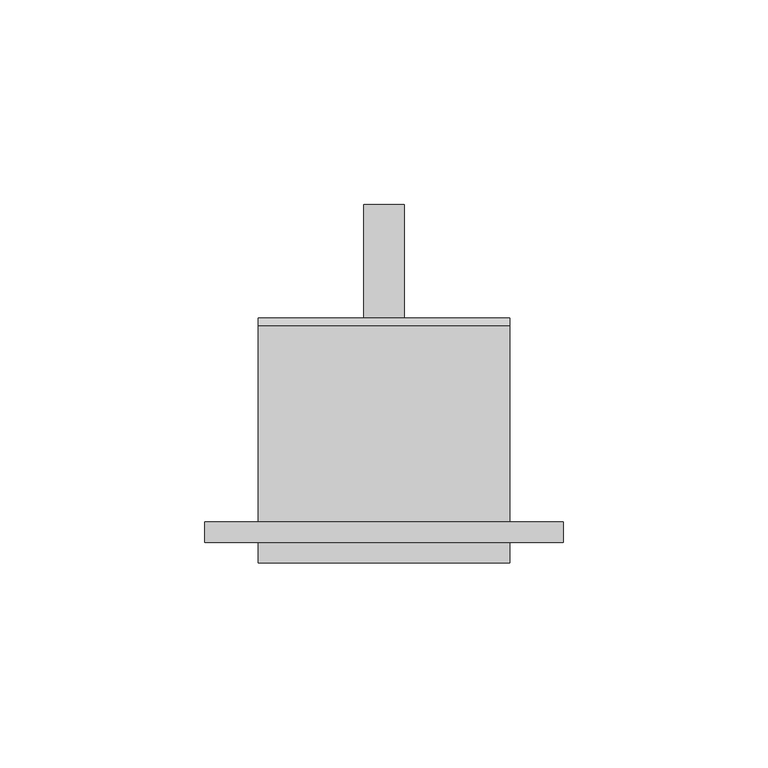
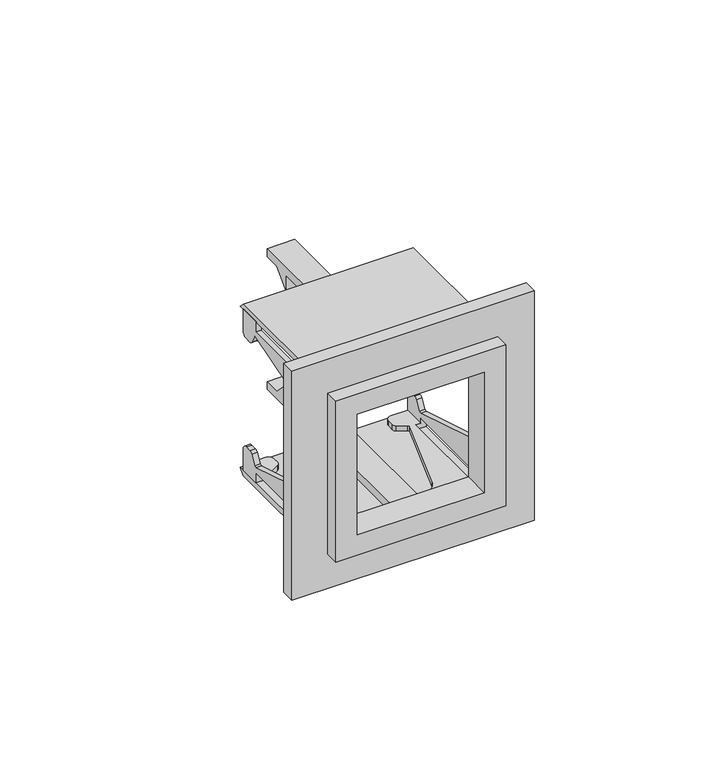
"""IFC4 building model written with IfcOpenShell, lengths in millimetres: proxy geometry, TDM_КРЕПЛЕНИЕ В ВЫРЕЗ ЩИТКА ДЛЯ РЕЛЕ РВ2_РВ3 : КР-57."""

from ifc_helpers import new_model, si_unit, frame, origin, place, context, project, spatial, polyline, circle_curve, outline, extrude, faceted_brep, source, transform, mapped, element, save
from ifc_brep_helpers import plane_surface, cylinder_surface, revolved_surface, advanced_brep


def electrical_equipment_624e8b7a(model_context):
    return source(origin(), model_context, "Body", "SolidModel", [
        faceted_brep([(30.75, -10.0, 30.75), (-30.75, -10.0, 30.75), (-30.75, -10.0, -30.75), (30.75, -10.0, -30.75), (23.0, -10.0, 23.0), (23.0, -10.0, -23.0), (-23.0, -10.0, -23.0), (-23.0, -10.0, 23.0), (43.8, 0.0, 43.8), (43.8, 0.0, -43.8), (-43.8, 0.0, -43.8), (-43.8, 0.0, 43.8), (23.0, 0.0, 23.0), (-23.0, 0.0, 23.0), (-23.0, 0.0, -23.0), (23.0, 0.0, -23.0), (30.75, -5.0, 30.75), (-30.75, -5.0, 30.75), (-30.75, -5.0, -30.75), (30.75, -5.0, -30.75), (43.8, -5.0, 43.8), (-43.8, -5.0, 43.8), (-43.8, -5.0, -43.8), (43.8, -5.0, -43.8)], [[[0, 1, 2, 3], [4, 5, 6, 7]], [[8, 9, 10, 11], [12, 13, 14, 15]], [[1, 0, 16, 17]], [[2, 1, 17, 18]], [[3, 2, 18, 19]], [[0, 3, 19, 16]], [[5, 4, 12, 15]], [[6, 5, 15, 14]], [[7, 6, 14, 13]], [[4, 7, 13, 12]], [[20, 21, 22, 23], [17, 16, 19, 18]], [[21, 20, 8, 11]], [[22, 21, 11, 10]], [[23, 22, 10, 9]], [[20, 23, 9, 8]]]),
        advanced_brep(
        [(-30.75, 48.0, 30.75), (-30.75, 48.0, 22.6353155), (-30.75, 46.1146845, 20.75), (-30.75, 43.7973806, 20.75), (-30.75, 42.6013097, 21.4405518), (-30.75, 40.7648835, 24.6213353), (-30.75, 39.9933813, 24.9252381), (-30.75, 10.3376033, 15.8585569), (-30.75, 6.0918335, 10.1207284), (-30.75, 6.0918335, -10.1207284), (-30.75, 10.3376033, -15.8585569), (-30.75, 39.9933813, -24.9252381), (-30.75, 40.7648835, -24.6213353), (-30.75, 42.6013097, -21.4405518), (-30.75, 43.7973806, -20.75), (-30.75, 46.1146845, -20.75), (-30.75, 48.0, -22.6353155), (-30.75, 48.0, -30.75), (-30.75, 40.0, -30.75), (-30.75, 40.0, -26.9082998), (-30.75, 0.0, -26.9082998), (-30.75, 0.0, 26.9082998), (-30.75, 40.0, 26.9082998), (-30.75, 40.0, 30.75), (-28.75, 40.0, 26.9082998), (-28.75, 0.0, 26.9082998), (-28.75, 0.0, -26.9082998), (-28.75, 40.0, -26.9082998), (-28.75, 40.0, -28.75), (-28.75, 48.0, -28.75), (-28.75, 48.0, -22.6353155), (-28.75, 46.1146845, -20.75), (-28.75, 43.7973806, -20.75), (-28.75, 42.6013097, -21.4405518), (-28.75, 40.7648835, -24.6213353), (-28.75, 39.9933813, -24.9252381), (-28.75, 10.3376033, -15.8585569), (-28.75, 6.0918335, -10.1207284), (-28.75, 6.0918335, 10.1207284), (-28.75, 10.3376033, 15.8585569), (-28.75, 39.9933813, 24.9252381), (-28.75, 40.7648835, 24.6213353), (-28.75, 42.6013097, 21.4405518), (-28.75, 43.7973806, 20.75), (-28.75, 46.1146845, 20.75), (-28.75, 48.0, 22.6353155), (-28.75, 48.0, 28.75), (-28.75, 40.0, 28.75), (-26.9082998, 40.0, 30.75), (-26.9082998, 0.0, 30.75), (26.9082998, 0.0, 30.75), (26.9082998, 40.0, 30.75), (30.75, 40.0, 30.75), (30.75, 48.0, 30.75), (22.6353155, 48.0, 30.75), (20.75, 46.1146845, 30.75), (20.75, 43.7973806, 30.75), (21.4405518, 42.6013097, 30.75), (24.6213353, 40.7648835, 30.75), (24.9252381, 39.9933813, 30.75), (15.8585569, 10.3376033, 30.75), (10.1207284, 6.0918335, 30.75), (-10.1207284, 6.0918335, 30.75), (-15.8585569, 10.3376033, 30.75), (-24.9252381, 39.9933813, 30.75), (-24.6213353, 40.7648835, 30.75), (-21.4405518, 42.6013097, 30.75), (-20.75, 43.7973806, 30.75), (-20.75, 46.1146845, 30.75), (-22.6353155, 48.0, 30.75), (-26.9082998, 40.0, 28.75), (-26.9082998, 40.0, -30.75), (-26.9082998, 40.0, -28.75), (-22.6353155, 48.0, -30.75), (-20.75, 46.1146845, -30.75), (-20.75, 43.7973806, -30.75), (-21.4405518, 42.6013097, -30.75), (-24.6213353, 40.7648835, -30.75), (-24.9252381, 39.9933813, -30.75), (-15.8585569, 10.3376033, -30.75), (-10.1207284, 6.0918335, -30.75), (10.1207284, 6.0918335, -30.75), (15.8585569, 10.3376033, -30.75), (24.9252381, 39.9933813, -30.75), (24.6213353, 40.7648835, -30.75), (21.4405518, 42.6013097, -30.75), (20.75, 43.7973806, -30.75), (20.75, 46.1146845, -30.75), (22.6353155, 48.0, -30.75), (30.75, 48.0, -30.75), (30.75, 40.0, -30.75), (26.9082998, 40.0, -30.75), (26.9082998, 0.0, -30.75), (-26.9082998, 0.0, -30.75), (-22.6353155, 48.0, -28.75), (-22.6353155, 48.0, 28.75), (22.6353155, 48.0, -28.75), (20.75, 46.1146845, -28.75), (20.75, 43.7973806, -28.75), (21.4405518, 42.6013097, -28.75), (24.6213353, 40.7648835, -28.75), (24.9252381, 39.9933813, -28.75), (15.8585569, 10.3376033, -28.75), (10.1207284, 6.0918335, -28.75), (-10.1207284, 6.0918335, -28.75), (-15.8585569, 10.3376033, -28.75), (-24.9252381, 39.9933813, -28.75), (-24.6213353, 40.7648835, -28.75), (-21.4405518, 42.6013097, -28.75), (-20.75, 43.7973806, -28.75), (-20.75, 46.1146845, -28.75), (-26.9082998, 0.0, -28.75), (26.9082998, 0.0, -28.75), (26.9082998, 40.0, -28.75), (28.75, 40.0, -28.75), (28.75, 48.0, -28.75), (30.75, 48.0, -22.6353155), (30.75, 46.1146845, -20.75), (30.75, 43.7973806, -20.75), (30.75, 42.6013097, -21.4405518), (30.75, 40.7648835, -24.6213353), (30.75, 39.9933813, -24.9252381), (30.75, 10.3376033, -15.8585569), (30.75, 6.0918335, -10.1207284), (30.75, 6.0918335, 10.1207284), (30.75, 10.3376033, 15.8585569), (30.75, 39.9933813, 24.9252381), (30.75, 40.7648835, 24.6213353), (30.75, 42.6013097, 21.4405518), (30.75, 43.7973806, 20.75), (30.75, 46.1146845, 20.75), (30.75, 48.0, 22.6353155), (30.75, 40.0, 26.9082998), (30.75, 0.0, 26.9082998), (30.75, 0.0, -26.9082998), (30.75, 40.0, -26.9082998), (28.75, 40.0, -26.9082998), (28.75, 48.0, -22.6353155), (28.75, 48.0, 22.6353155), (28.75, 46.1146845, 20.75), (28.75, 43.7973806, 20.75), (28.75, 42.6013097, 21.4405518), (28.75, 40.7648835, 24.6213353), (28.75, 39.9933813, 24.9252381), (28.75, 10.3376033, 15.8585569), (28.75, 6.0918335, 10.1207284), (28.75, 6.0918335, -10.1207284), (28.75, 10.3376033, -15.8585569), (28.75, 39.9933813, -24.9252381), (28.75, 40.7648835, -24.6213353), (28.75, 42.6013097, -21.4405518), (28.75, 43.7973806, -20.75), (28.75, 46.1146845, -20.75), (28.75, 0.0, -26.9082998), (28.75, 0.0, 26.9082998), (28.75, 40.0, 26.9082998), (28.75, 40.0, 28.75), (28.75, 48.0, 28.75), (26.9082998, 40.0, 28.75), (22.6353155, 48.0, 28.75), (26.9082998, 0.0, 28.75), (-26.9082998, 0.0, 28.75), (-20.75, 46.1146845, 28.75), (-20.75, 43.7973806, 28.75), (-21.4405518, 42.6013097, 28.75), (-24.6213353, 40.7648835, 28.75), (-24.9252381, 39.9933813, 28.75), (-15.8585569, 10.3376033, 28.75), (-10.1207284, 6.0918335, 28.75), (10.1207284, 6.0918335, 28.75), (15.8585569, 10.3376033, 28.75), (24.9252381, 39.9933813, 28.75), (24.6213353, 40.7648835, 28.75), (21.4405518, 42.6013097, 28.75), (20.75, 43.7973806, 28.75), (20.75, 46.1146845, 28.75)],
        [
            (0, 1),
            (1, 2, circle_curve(frame((-30.75, 46.1146845, 22.6353155), z_axis=(-1.0, 0.0, 0.0), x_axis=(0.0, -1.0, 0.0)), 1.8853155)),
            (2, 3),
            (3, 4, circle_curve(frame((-30.75, 43.7973806, 22.1311036), z_axis=(-1.0, 0.0, 0.0), x_axis=(0.0, -1.0, 0.0)), 1.3811036)),
            (4, 5),
            (5, 6, circle_curve(frame((-30.75, 40.1881033, 24.2883312), z_axis=(1.0, 0.0, 0.0), x_axis=(0.0, -1.0, 0.0)), 0.6660084)),
            (6, 7),
            (7, 8, circle_curve(frame((-30.75, 12.0918335, 10.1207284), z_axis=(1.0, 0.0, 0.0), x_axis=(0.0, -1.0, 0.0)), 6.0)),
            (8, 9),
            (9, 10, circle_curve(frame((-30.75, 12.0918335, -10.1207284), z_axis=(1.0, 0.0, 0.0), x_axis=(0.0, -1.0, 0.0)), 6.0)),
            (10, 11),
            (11, 12, circle_curve(frame((-30.75, 40.1881033, -24.2883312), z_axis=(1.0, 0.0, 0.0), x_axis=(0.0, -1.0, 0.0)), 0.6660084)),
            (12, 13),
            (13, 14, circle_curve(frame((-30.75, 43.7973806, -22.1311036), z_axis=(-1.0, 0.0, 0.0), x_axis=(0.0, -1.0, 0.0)), 1.3811036)),
            (14, 15),
            (15, 16, circle_curve(frame((-30.75, 46.1146845, -22.6353155), z_axis=(-1.0, 0.0, 0.0), x_axis=(0.0, -1.0, 0.0)), 1.8853155)),
            (16, 17),
            (17, 18),
            (18, 19),
            (19, 20),
            (20, 21),
            (21, 22),
            (22, 23),
            (23, 0),
            (24, 25),
            (25, 26),
            (26, 27),
            (27, 28),
            (28, 29),
            (29, 30),
            (30, 31, circle_curve(frame((-28.75, 46.1146845, -22.6353155), z_axis=(1.0, 0.0, 0.0), x_axis=(0.0, -1.0, 0.0)), 1.8853155)),
            (31, 32),
            (32, 33, circle_curve(frame((-28.75, 43.7973806, -22.1311036), z_axis=(1.0, 0.0, 0.0), x_axis=(0.0, -1.0, 0.0)), 1.3811036)),
            (33, 34),
            (34, 35, circle_curve(frame((-28.75, 40.1881033, -24.2883312), z_axis=(-1.0, 0.0, 0.0), x_axis=(0.0, -1.0, 0.0)), 0.6660084)),
            (35, 36),
            (36, 37, circle_curve(frame((-28.75, 12.0918335, -10.1207284), z_axis=(-1.0, 0.0, 0.0), x_axis=(0.0, -1.0, 0.0)), 6.0)),
            (37, 38),
            (38, 39, circle_curve(frame((-28.75, 12.0918335, 10.1207284), z_axis=(-1.0, 0.0, 0.0), x_axis=(0.0, -1.0, 0.0)), 6.0)),
            (39, 40),
            (40, 41, circle_curve(frame((-28.75, 40.1881033, 24.2883312), z_axis=(-1.0, 0.0, 0.0), x_axis=(0.0, -1.0, 0.0)), 0.6660084)),
            (41, 42),
            (42, 43, circle_curve(frame((-28.75, 43.7973806, 22.1311036), z_axis=(1.0, 0.0, 0.0), x_axis=(0.0, -1.0, 0.0)), 1.3811036)),
            (43, 44),
            (44, 45, circle_curve(frame((-28.75, 46.1146845, 22.6353155), z_axis=(1.0, 0.0, 0.0), x_axis=(0.0, -1.0, 0.0)), 1.8853155)),
            (45, 46),
            (46, 47),
            (47, 24),
            (23, 48),
            (48, 49),
            (49, 50),
            (50, 51),
            (51, 52),
            (52, 53),
            (53, 54),
            (54, 55, circle_curve(frame((22.6353155, 46.1146845, 30.75), z_axis=(0.0, 0.0, 1.0), x_axis=(0.0, -1.0, 0.0)), 1.8853155)),
            (55, 56),
            (56, 57, circle_curve(frame((22.1311036, 43.7973806, 30.75), z_axis=(0.0, 0.0, 1.0), x_axis=(0.0, -1.0, 0.0)), 1.3811036)),
            (57, 58),
            (58, 59, circle_curve(frame((24.2883312, 40.1881033, 30.75), z_axis=(0.0, 0.0, -1.0), x_axis=(0.0, -1.0, 0.0)), 0.6660084)),
            (59, 60),
            (60, 61, circle_curve(frame((10.1207284, 12.0918335, 30.75), z_axis=(0.0, 0.0, -1.0), x_axis=(0.0, -1.0, 0.0)), 6.0)),
            (61, 62),
            (62, 63, circle_curve(frame((-10.1207284, 12.0918335, 30.75), z_axis=(0.0, 0.0, -1.0), x_axis=(0.0, -1.0, 0.0)), 6.0)),
            (63, 64),
            (64, 65, circle_curve(frame((-24.2883312, 40.1881033, 30.75), z_axis=(0.0, 0.0, -1.0), x_axis=(0.0, -1.0, 0.0)), 0.6660084)),
            (65, 66),
            (66, 67, circle_curve(frame((-22.1311036, 43.7973806, 30.75), z_axis=(0.0, 0.0, 1.0), x_axis=(0.0, -1.0, 0.0)), 1.3811036)),
            (67, 68),
            (68, 69, circle_curve(frame((-22.6353155, 46.1146845, 30.75), z_axis=(0.0, 0.0, 1.0), x_axis=(0.0, -1.0, 0.0)), 1.8853155)),
            (69, 0),
            (22, 24),
            (47, 70),
            (70, 48),
            (21, 25),
            (20, 26),
            (19, 27),
            (18, 71),
            (71, 72),
            (72, 28),
            (17, 73),
            (73, 74, circle_curve(frame((-22.6353155, 46.1146845, -30.75), z_axis=(0.0, 0.0, -1.0), x_axis=(0.0, -1.0, 0.0)), 1.8853155)),
            (74, 75),
            (75, 76, circle_curve(frame((-22.1311036, 43.7973806, -30.75), z_axis=(0.0, 0.0, -1.0), x_axis=(0.0, -1.0, 0.0)), 1.3811036)),
            (76, 77),
            (77, 78, circle_curve(frame((-24.2883312, 40.1881033, -30.75), z_axis=(0.0, 0.0, 1.0), x_axis=(0.0, -1.0, 0.0)), 0.6660084)),
            (78, 79),
            (79, 80, circle_curve(frame((-10.1207284, 12.0918335, -30.75), z_axis=(0.0, 0.0, 1.0), x_axis=(0.0, -1.0, 0.0)), 6.0)),
            (80, 81),
            (81, 82, circle_curve(frame((10.1207284, 12.0918335, -30.75), z_axis=(0.0, 0.0, 1.0), x_axis=(0.0, -1.0, 0.0)), 6.0)),
            (82, 83),
            (83, 84, circle_curve(frame((24.2883312, 40.1881033, -30.75), z_axis=(0.0, 0.0, 1.0), x_axis=(0.0, -1.0, 0.0)), 0.6660084)),
            (84, 85),
            (85, 86, circle_curve(frame((22.1311036, 43.7973806, -30.75), z_axis=(0.0, 0.0, -1.0), x_axis=(0.0, -1.0, 0.0)), 1.3811036)),
            (86, 87),
            (87, 88, circle_curve(frame((22.6353155, 46.1146845, -30.75), z_axis=(0.0, 0.0, -1.0), x_axis=(0.0, -1.0, 0.0)), 1.8853155)),
            (88, 89),
            (89, 90),
            (90, 91),
            (91, 92),
            (92, 93),
            (93, 71),
            (16, 30),
            (29, 94),
            (94, 73),
            (15, 31),
            (14, 32),
            (13, 33),
            (12, 34),
            (11, 35),
            (10, 36),
            (9, 37),
            (8, 38),
            (7, 39),
            (6, 40),
            (5, 41),
            (4, 42),
            (3, 43),
            (2, 44),
            (1, 45),
            (69, 95),
            (95, 46),
            (96, 97, circle_curve(frame((22.6353155, 46.1146845, -28.75), z_axis=(0.0, 0.0, 1.0), x_axis=(0.0, -1.0, 0.0)), 1.8853155)),
            (97, 98),
            (98, 99, circle_curve(frame((22.1311036, 43.7973806, -28.75), z_axis=(0.0, 0.0, 1.0), x_axis=(0.0, -1.0, 0.0)), 1.3811036)),
            (99, 100),
            (100, 101, circle_curve(frame((24.2883312, 40.1881033, -28.75), z_axis=(0.0, 0.0, -1.0), x_axis=(0.0, -1.0, 0.0)), 0.6660084)),
            (101, 102),
            (102, 103, circle_curve(frame((10.1207284, 12.0918335, -28.75), z_axis=(0.0, 0.0, -1.0), x_axis=(0.0, -1.0, 0.0)), 6.0)),
            (103, 104),
            (104, 105, circle_curve(frame((-10.1207284, 12.0918335, -28.75), z_axis=(0.0, 0.0, -1.0), x_axis=(0.0, -1.0, 0.0)), 6.0)),
            (105, 106),
            (106, 107, circle_curve(frame((-24.2883312, 40.1881033, -28.75), z_axis=(0.0, 0.0, -1.0), x_axis=(0.0, -1.0, 0.0)), 0.6660084)),
            (107, 108),
            (108, 109, circle_curve(frame((-22.1311036, 43.7973806, -28.75), z_axis=(0.0, 0.0, 1.0), x_axis=(0.0, -1.0, 0.0)), 1.3811036)),
            (109, 110),
            (110, 94, circle_curve(frame((-22.6353155, 46.1146845, -28.75), z_axis=(0.0, 0.0, 1.0), x_axis=(0.0, -1.0, 0.0)), 1.8853155)),
            (72, 111),
            (111, 112),
            (112, 113),
            (113, 114),
            (114, 115),
            (115, 96),
            (89, 116),
            (116, 117, circle_curve(frame((30.75, 46.1146845, -22.6353155), z_axis=(1.0, 0.0, 0.0), x_axis=(0.0, -1.0, 0.0)), 1.8853155)),
            (117, 118),
            (118, 119, circle_curve(frame((30.75, 43.7973806, -22.1311036), z_axis=(1.0, 0.0, 0.0), x_axis=(0.0, -1.0, 0.0)), 1.3811036)),
            (119, 120),
            (120, 121, circle_curve(frame((30.75, 40.1881033, -24.2883312), z_axis=(-1.0, 0.0, 0.0), x_axis=(0.0, -1.0, 0.0)), 0.6660084)),
            (121, 122),
            (122, 123, circle_curve(frame((30.75, 12.0918335, -10.1207284), z_axis=(-1.0, 0.0, 0.0), x_axis=(0.0, -1.0, 0.0)), 6.0)),
            (123, 124),
            (124, 125, circle_curve(frame((30.75, 12.0918335, 10.1207284), z_axis=(-1.0, 0.0, 0.0), x_axis=(0.0, -1.0, 0.0)), 6.0)),
            (125, 126),
            (126, 127, circle_curve(frame((30.75, 40.1881033, 24.2883312), z_axis=(-1.0, 0.0, 0.0), x_axis=(0.0, -1.0, 0.0)), 0.6660084)),
            (127, 128),
            (128, 129, circle_curve(frame((30.75, 43.7973806, 22.1311036), z_axis=(1.0, 0.0, 0.0), x_axis=(0.0, -1.0, 0.0)), 1.3811036)),
            (129, 130),
            (130, 131, circle_curve(frame((30.75, 46.1146845, 22.6353155), z_axis=(1.0, 0.0, 0.0), x_axis=(0.0, -1.0, 0.0)), 1.8853155)),
            (131, 53),
            (52, 132),
            (132, 133),
            (133, 134),
            (134, 135),
            (135, 90),
            (113, 91),
            (135, 136),
            (136, 114),
            (112, 92),
            (111, 93),
            (110, 74),
            (109, 75),
            (108, 76),
            (107, 77),
            (106, 78),
            (105, 79),
            (104, 80),
            (103, 81),
            (102, 82),
            (101, 83),
            (100, 84),
            (99, 85),
            (98, 86),
            (97, 87),
            (96, 88),
            (115, 137),
            (137, 116),
            (138, 139, circle_curve(frame((28.75, 46.1146845, 22.6353155), z_axis=(-1.0, 0.0, 0.0), x_axis=(0.0, -1.0, 0.0)), 1.8853155)),
            (139, 140),
            (140, 141, circle_curve(frame((28.75, 43.7973806, 22.1311036), z_axis=(-1.0, 0.0, 0.0), x_axis=(0.0, -1.0, 0.0)), 1.3811036)),
            (141, 142),
            (142, 143, circle_curve(frame((28.75, 40.1881033, 24.2883312), z_axis=(1.0, 0.0, 0.0), x_axis=(0.0, -1.0, 0.0)), 0.6660084)),
            (143, 144),
            (144, 145, circle_curve(frame((28.75, 12.0918335, 10.1207284), z_axis=(1.0, 0.0, 0.0), x_axis=(0.0, -1.0, 0.0)), 6.0)),
            (145, 146),
            (146, 147, circle_curve(frame((28.75, 12.0918335, -10.1207284), z_axis=(1.0, 0.0, 0.0), x_axis=(0.0, -1.0, 0.0)), 6.0)),
            (147, 148),
            (148, 149, circle_curve(frame((28.75, 40.1881033, -24.2883312), z_axis=(1.0, 0.0, 0.0), x_axis=(0.0, -1.0, 0.0)), 0.6660084)),
            (149, 150),
            (150, 151, circle_curve(frame((28.75, 43.7973806, -22.1311036), z_axis=(-1.0, 0.0, 0.0), x_axis=(0.0, -1.0, 0.0)), 1.3811036)),
            (151, 152),
            (152, 137, circle_curve(frame((28.75, 46.1146845, -22.6353155), z_axis=(-1.0, 0.0, 0.0), x_axis=(0.0, -1.0, 0.0)), 1.8853155)),
            (136, 153),
            (153, 154),
            (154, 155),
            (155, 156),
            (156, 157),
            (157, 138),
            (51, 158),
            (158, 156),
            (155, 132),
            (154, 133),
            (153, 134),
            (152, 117),
            (151, 118),
            (150, 119),
            (149, 120),
            (148, 121),
            (147, 122),
            (146, 123),
            (145, 124),
            (144, 125),
            (143, 126),
            (142, 127),
            (141, 128),
            (140, 129),
            (139, 130),
            (138, 131),
            (157, 159),
            (159, 54),
            (158, 160),
            (160, 161),
            (161, 70),
            (95, 162, circle_curve(frame((-22.6353155, 46.1146845, 28.75), z_axis=(0.0, 0.0, -1.0), x_axis=(0.0, -1.0, 0.0)), 1.8853155)),
            (162, 163),
            (163, 164, circle_curve(frame((-22.1311036, 43.7973806, 28.75), z_axis=(0.0, 0.0, -1.0), x_axis=(0.0, -1.0, 0.0)), 1.3811036)),
            (164, 165),
            (165, 166, circle_curve(frame((-24.2883312, 40.1881033, 28.75), z_axis=(0.0, 0.0, 1.0), x_axis=(0.0, -1.0, 0.0)), 0.6660084)),
            (166, 167),
            (167, 168, circle_curve(frame((-10.1207284, 12.0918335, 28.75), z_axis=(0.0, 0.0, 1.0), x_axis=(0.0, -1.0, 0.0)), 6.0)),
            (168, 169),
            (169, 170, circle_curve(frame((10.1207284, 12.0918335, 28.75), z_axis=(0.0, 0.0, 1.0), x_axis=(0.0, -1.0, 0.0)), 6.0)),
            (170, 171),
            (171, 172, circle_curve(frame((24.2883312, 40.1881033, 28.75), z_axis=(0.0, 0.0, 1.0), x_axis=(0.0, -1.0, 0.0)), 0.6660084)),
            (172, 173),
            (173, 174, circle_curve(frame((22.1311036, 43.7973806, 28.75), z_axis=(0.0, 0.0, -1.0), x_axis=(0.0, -1.0, 0.0)), 1.3811036)),
            (174, 175),
            (175, 159, circle_curve(frame((22.6353155, 46.1146845, 28.75), z_axis=(0.0, 0.0, -1.0), x_axis=(0.0, -1.0, 0.0)), 1.8853155)),
            (50, 160),
            (49, 161),
            (68, 162),
            (67, 163),
            (66, 164),
            (65, 165),
            (64, 166),
            (63, 167),
            (62, 168),
            (61, 169),
            (60, 170),
            (59, 171),
            (58, 172),
            (57, 173),
            (56, 174),
            (55, 175),
        ],
        [
            plane_surface(frame((-30.75, 48.0, 30.75), z_axis=(-1.0, 0.0, 0.0), x_axis=(0.0, 0.0, -1.0))),
            plane_surface(frame((-28.75, 48.0, 30.75), z_axis=(1.0, 0.0, 0.0), x_axis=(0.0, 0.0, 1.0))),
            plane_surface(frame((-30.75, 40.0, 30.75), z_axis=(0.0, 0.0, 1.0), x_axis=(1.0, 0.0, 0.0))),
            plane_surface(frame((-30.75, 40.0, 26.9082998), z_axis=(0.0, -1.0, 0.0), x_axis=(1.0, 0.0, 0.0))),
            plane_surface(frame((-30.75, 0.0, 26.9082998), z_axis=(0.0, 0.0, 1.0), x_axis=(1.0, 0.0, 0.0))),
            plane_surface(frame((-30.75, 0.0, -26.9082998), z_axis=(0.0, -1.0, 0.0), x_axis=(1.0, 0.0, 0.0))),
            plane_surface(frame((-30.75, 40.0, -26.9082998), z_axis=(0.0, 0.0, -1.0), x_axis=(1.0, 0.0, 0.0))),
            plane_surface(frame((-30.75, 40.0, -30.75), z_axis=(0.0, -1.0, 0.0), x_axis=(1.0, 0.0, 0.0))),
            plane_surface(frame((-30.75, 48.0, -30.75), z_axis=(0.0, 0.0, -1.0), x_axis=(1.0, 0.0, 0.0))),
            plane_surface(frame((-30.75, 48.0, -22.6353155), z_axis=(0.0, 1.0, 0.0), x_axis=(1.0, 0.0, 0.0))),
            cylinder_surface(frame((-28.75, 46.1146845, -22.6353155), z_axis=(-1.0, 0.0, 0.0), x_axis=(0.0, -1.0, 0.0)), 1.8853155),
            plane_surface(frame((-30.75, 43.7973806, -20.75), z_axis=(0.0, 0.0, 1.0), x_axis=(1.0, 0.0, 0.0))),
            cylinder_surface(frame((-28.75, 43.7973806, -22.1311036), z_axis=(-1.0, 0.0, 0.0), x_axis=(0.0, -1.0, 0.0)), 1.3811036),
            plane_surface(frame((-30.75, 40.7648835, -24.6213353), z_axis=(0.0, -0.8660254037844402, 0.4999999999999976), x_axis=(1.0, 0.0, 0.0))),
            revolved_surface(polyline([(-28.75, 39.5220949, -24.2883312), (-30.75, 39.5220949, -24.2883312)]), (-28.75, 40.1881033, -24.2883312), (1.0, 0.0, 0.0)),
            plane_surface(frame((-30.75, 10.3376033, -15.8585569), z_axis=(0.0, 0.29237170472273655, 0.9563047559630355), x_axis=(1.0, 0.0, 0.0))),
            revolved_surface(polyline([(-28.75, 6.0918335, -10.1207284), (-30.75, 6.0918335, -10.1207284)]), (-28.75, 12.0918335, -10.1207284), (1.0, 0.0, 0.0)),
            plane_surface(frame((-30.75, 6.0918335, 10.1207284), z_axis=(0.0, 1.0, 0.0), x_axis=(1.0, 0.0, 0.0))),
            revolved_surface(polyline([(-28.75, 6.0918335, 10.1207284), (-30.75, 6.0918335, 10.1207284)]), (-28.75, 12.0918335, 10.1207284), (1.0, 0.0, 0.0)),
            plane_surface(frame((-30.75, 39.9933813, 24.9252381), z_axis=(0.0, 0.2923717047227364, -0.9563047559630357), x_axis=(1.0, 0.0, 0.0))),
            revolved_surface(polyline([(-28.75, 39.5220949, 24.2883312), (-30.75, 39.5220949, 24.2883312)]), (-28.75, 40.1881033, 24.2883312), (1.0, 0.0, 0.0)),
            plane_surface(frame((-30.75, 42.6013097, 21.4405518), z_axis=(0.0, -0.8660254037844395, -0.49999999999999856), x_axis=(1.0, 0.0, 0.0))),
            cylinder_surface(frame((-28.75, 43.7973806, 22.1311036), z_axis=(-1.0, 0.0, 0.0), x_axis=(0.0, -1.0, 0.0)), 1.3811036),
            plane_surface(frame((-30.75, 46.1146845, 20.75), z_axis=(0.0, 0.0, -1.0), x_axis=(1.0, 0.0, 0.0))),
            cylinder_surface(frame((-28.75, 46.1146845, 22.6353155), z_axis=(-1.0, 0.0, 0.0), x_axis=(0.0, -1.0, 0.0)), 1.8853155),
            plane_surface(frame((-30.75, 48.0, 30.75), z_axis=(0.0, 1.0, 0.0), x_axis=(1.0, 0.0, 0.0))),
            plane_surface(frame((30.75, 48.0, -28.75), z_axis=(0.0, 0.0, 1.0), x_axis=(-1.0, 0.0, 0.0))),
            plane_surface(frame((30.75, 40.0, -28.75), z_axis=(1.0, 0.0, 0.0), x_axis=(0.0, 0.0, -1.0))),
            plane_surface(frame((26.9082998, 40.0, -28.75), z_axis=(0.0, -1.0, 0.0), x_axis=(0.0, 0.0, -1.0))),
            plane_surface(frame((26.9082998, 0.0, -28.75), z_axis=(1.0, 0.0, 0.0), x_axis=(0.0, 0.0, -1.0))),
            plane_surface(frame((-26.9082998, 0.0, -28.75), z_axis=(0.0, -1.0, 0.0), x_axis=(0.0, 0.0, -1.0))),
            plane_surface(frame((-26.9082998, 40.0, -28.75), z_axis=(-1.0, 0.0, 0.0), x_axis=(0.0, 0.0, -1.0))),
            cylinder_surface(frame((-22.6353155, 46.1146845, -30.75), z_axis=(0.0, 0.0, 1.0), x_axis=(0.0, -1.0, 0.0)), 1.8853155),
            plane_surface(frame((-20.75, 43.7973806, -28.75), z_axis=(1.0, 0.0, 0.0), x_axis=(0.0, 0.0, -1.0))),
            cylinder_surface(frame((-22.1311036, 43.7973806, -30.75), z_axis=(0.0, 0.0, 1.0), x_axis=(0.0, -1.0, 0.0)), 1.3811036),
            plane_surface(frame((-24.6213353, 40.7648835, -28.75), z_axis=(0.4999999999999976, -0.8660254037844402, 0.0), x_axis=(0.0, 0.0, -1.0))),
            revolved_surface(polyline([(-24.2883312, 39.5220949, -30.75), (-24.2883312, 39.5220949, -28.75)]), (-24.2883312, 40.1881033, -30.75), (0.0, 0.0, -1.0)),
            plane_surface(frame((-15.8585569, 10.3376033, -28.75), z_axis=(0.9563047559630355, 0.29237170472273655, 0.0), x_axis=(0.0, 0.0, -1.0))),
            revolved_surface(polyline([(-10.1207284, 6.0918335, -30.75), (-10.1207284, 6.0918335, -28.75)]), (-10.1207284, 12.0918335, -30.75), (0.0, 0.0, -1.0)),
            plane_surface(frame((10.1207284, 6.0918335, -28.75), z_axis=(0.0, 1.0, 0.0), x_axis=(0.0, 0.0, -1.0))),
            revolved_surface(polyline([(10.1207284, 6.0918335, -30.75), (10.1207284, 6.0918335, -28.75)]), (10.1207284, 12.0918335, -30.75), (0.0, 0.0, -1.0)),
            plane_surface(frame((24.9252381, 39.9933813, -28.75), z_axis=(-0.9563047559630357, 0.29237170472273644, 0.0), x_axis=(0.0, 0.0, -1.0))),
            revolved_surface(polyline([(24.2883312, 39.5220949, -30.75), (24.2883312, 39.5220949, -28.75)]), (24.2883312, 40.1881033, -30.75), (0.0, 0.0, -1.0)),
            plane_surface(frame((21.4405518, 42.6013097, -28.75), z_axis=(-0.49999999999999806, -0.8660254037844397, 0.0), x_axis=(0.0, 0.0, -1.0))),
            cylinder_surface(frame((22.1311036, 43.7973806, -30.75), z_axis=(0.0, 0.0, 1.0), x_axis=(0.0, -1.0, 0.0)), 1.3811036),
            plane_surface(frame((20.75, 46.1146845, -28.75), z_axis=(-1.0, 0.0, 0.0), x_axis=(0.0, 0.0, -1.0))),
            cylinder_surface(frame((22.6353155, 46.1146845, -30.75), z_axis=(0.0, 0.0, 1.0), x_axis=(0.0, -1.0, 0.0)), 1.8853155),
            plane_surface(frame((30.75, 48.0, -28.75), z_axis=(0.0, 1.0, 0.0), x_axis=(0.0, 0.0, -1.0))),
            plane_surface(frame((28.75, 0.0, 30.75), z_axis=(-1.0, 0.0, 0.0), x_axis=(0.0, 1.0, 0.0))),
            plane_surface(frame((30.75, 40.0, 30.75), z_axis=(0.0, -1.0, 0.0), x_axis=(-1.0, 0.0, 0.0))),
            plane_surface(frame((30.75, 40.0, 26.9082998), z_axis=(0.0, 0.0, 1.0), x_axis=(-1.0, 0.0, 0.0))),
            plane_surface(frame((30.75, 0.0, 26.9082998), z_axis=(0.0, -1.0, 0.0), x_axis=(-1.0, 0.0, 0.0))),
            plane_surface(frame((30.75, 0.0, -26.9082998), z_axis=(0.0, 0.0, -1.0), x_axis=(-1.0, 0.0, 0.0))),
            cylinder_surface(frame((28.75, 46.1146845, -22.6353155), z_axis=(1.0, 0.0, 0.0), x_axis=(0.0, -1.0, 0.0)), 1.8853155),
            plane_surface(frame((30.75, 46.1146845, -20.75), z_axis=(0.0, 0.0, 1.0), x_axis=(-1.0, 0.0, 0.0))),
            cylinder_surface(frame((28.75, 43.7973806, -22.1311036), z_axis=(1.0, 0.0, 0.0), x_axis=(0.0, -1.0, 0.0)), 1.3811036),
            plane_surface(frame((30.75, 42.6013097, -21.4405518), z_axis=(0.0, -0.8660254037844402, 0.4999999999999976), x_axis=(-1.0, 0.0, 0.0))),
            revolved_surface(polyline([(28.75, 39.5220949, -24.2883312), (30.75, 39.5220949, -24.2883312)]), (28.75, 40.1881033, -24.2883312), (-1.0, 0.0, 0.0)),
            plane_surface(frame((30.75, 39.9933813, -24.9252381), z_axis=(0.0, 0.29237170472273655, 0.9563047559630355), x_axis=(-1.0, 0.0, 0.0))),
            revolved_surface(polyline([(28.75, 6.0918335, -10.1207284), (30.75, 6.0918335, -10.1207284)]), (28.75, 12.0918335, -10.1207284), (-1.0, 0.0, 0.0)),
            plane_surface(frame((30.75, 6.0918335, -10.1207284), z_axis=(0.0, 1.0, 0.0), x_axis=(-1.0, 0.0, 0.0))),
            revolved_surface(polyline([(28.75, 6.0918335, 10.1207284), (30.75, 6.0918335, 10.1207284)]), (28.75, 12.0918335, 10.1207284), (-1.0, 0.0, 0.0)),
            plane_surface(frame((30.75, 10.3376033, 15.8585569), z_axis=(0.0, 0.2923717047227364, -0.9563047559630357), x_axis=(-1.0, 0.0, 0.0))),
            revolved_surface(polyline([(28.75, 39.5220949, 24.2883312), (30.75, 39.5220949, 24.2883312)]), (28.75, 40.1881033, 24.2883312), (-1.0, 0.0, 0.0)),
            plane_surface(frame((30.75, 40.7648835, 24.6213353), z_axis=(0.0, -0.8660254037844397, -0.49999999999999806), x_axis=(-1.0, 0.0, 0.0))),
            cylinder_surface(frame((28.75, 43.7973806, 22.1311036), z_axis=(1.0, 0.0, 0.0), x_axis=(0.0, -1.0, 0.0)), 1.3811036),
            plane_surface(frame((30.75, 43.7973806, 20.75), z_axis=(0.0, 0.0, -1.0), x_axis=(-1.0, 0.0, 0.0))),
            cylinder_surface(frame((28.75, 46.1146845, 22.6353155), z_axis=(1.0, 0.0, 0.0), x_axis=(0.0, -1.0, 0.0)), 1.8853155),
            plane_surface(frame((30.75, 48.0, 22.6353155), z_axis=(0.0, 1.0, 0.0), x_axis=(-1.0, 0.0, 0.0))),
            plane_surface(frame((30.75, 48.0, 28.75), z_axis=(0.0, 0.0, -1.0), x_axis=(1.0, 0.0, 0.0))),
            plane_surface(frame((26.9082998, 0.0, 30.75), z_axis=(1.0, 0.0, 0.0), x_axis=(0.0, 0.0, -1.0))),
            plane_surface(frame((-26.9082998, 0.0, 30.75), z_axis=(0.0, -1.0, 0.0), x_axis=(0.0, 0.0, -1.0))),
            plane_surface(frame((-26.9082998, 40.0, 30.75), z_axis=(-1.0, 0.0, 0.0), x_axis=(0.0, 0.0, -1.0))),
            cylinder_surface(frame((-22.6353155, 46.1146845, 28.75), z_axis=(0.0, 0.0, 1.0), x_axis=(0.0, -1.0, 0.0)), 1.8853155),
            plane_surface(frame((-20.75, 43.7973806, 30.75), z_axis=(1.0, 0.0, 0.0), x_axis=(0.0, 0.0, -1.0))),
            cylinder_surface(frame((-22.1311036, 43.7973806, 28.75), z_axis=(0.0, 0.0, 1.0), x_axis=(0.0, -1.0, 0.0)), 1.3811036),
            plane_surface(frame((-24.6213353, 40.7648835, 30.75), z_axis=(0.4999999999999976, -0.8660254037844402, 0.0), x_axis=(0.0, 0.0, -1.0))),
            revolved_surface(polyline([(-24.2883312, 39.5220949, 28.75), (-24.2883312, 39.5220949, 30.75)]), (-24.2883312, 40.1881033, 28.75), (0.0, 0.0, -1.0)),
            plane_surface(frame((-15.8585569, 10.3376033, 30.75), z_axis=(0.9563047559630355, 0.29237170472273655, 0.0), x_axis=(0.0, 0.0, -1.0))),
            revolved_surface(polyline([(-10.1207284, 6.0918335, 28.75), (-10.1207284, 6.0918335, 30.75)]), (-10.1207284, 12.0918335, 28.75), (0.0, 0.0, -1.0)),
            plane_surface(frame((10.1207284, 6.0918335, 30.75), z_axis=(0.0, 1.0, 0.0), x_axis=(0.0, 0.0, -1.0))),
            revolved_surface(polyline([(10.1207284, 6.0918335, 28.75), (10.1207284, 6.0918335, 30.75)]), (10.1207284, 12.0918335, 28.75), (0.0, 0.0, -1.0)),
            plane_surface(frame((24.9252381, 39.9933813, 30.75), z_axis=(-0.9563047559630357, 0.29237170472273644, 0.0), x_axis=(0.0, 0.0, -1.0))),
            revolved_surface(polyline([(24.2883312, 39.5220949, 28.75), (24.2883312, 39.5220949, 30.75)]), (24.2883312, 40.1881033, 28.75), (0.0, 0.0, -1.0)),
            plane_surface(frame((21.4405518, 42.6013097, 30.75), z_axis=(-0.49999999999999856, -0.8660254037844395, 0.0), x_axis=(0.0, 0.0, -1.0))),
            cylinder_surface(frame((22.1311036, 43.7973806, 28.75), z_axis=(0.0, 0.0, 1.0), x_axis=(0.0, -1.0, 0.0)), 1.3811036),
            plane_surface(frame((20.75, 46.1146845, 30.75), z_axis=(-1.0, 0.0, 0.0), x_axis=(0.0, 0.0, -1.0))),
            cylinder_surface(frame((22.6353155, 46.1146845, 28.75), z_axis=(0.0, 0.0, 1.0), x_axis=(0.0, -1.0, 0.0)), 1.8853155),
        ],
        [
            (0, [[1, 2, 3, 4, 5, 6, 7, 8, 9, 10, 11, 12, 13, 14, 15, 16, 17, 18, 19, 20, 21, 22, 23, 24]]),
            (1, [[25, 26, 27, 28, 29, 30, 31, 32, 33, 34, 35, 36, 37, 38, 39, 40, 41, 42, 43, 44, 45, 46, 47, 48]]),
            (2, [[-24, 49, 50, 51, 52, 53, 54, 55, 56, 57, 58, 59, 60, 61, 62, 63, 64, 65, 66, 67, 68, 69, 70, 71]]),
            (3, [[-49, -23, 72, -48, 73, 74]]),
            (4, [[-22, 75, -25, -72]]),
            (5, [[-21, 76, -26, -75]]),
            (6, [[-20, 77, -27, -76]]),
            (7, [[-77, -19, 78, 79, 80, -28]]),
            (8, [[-18, 81, 82, 83, 84, 85, 86, 87, 88, 89, 90, 91, 92, 93, 94, 95, 96, 97, 98, 99, 100, 101, 102, -78]]),
            (9, [[103, -30, 104, 105, -81, -17]]),
            (10, [[-16, 106, -31, -103]]),
            (11, [[-15, 107, -32, -106]]),
            (12, [[-14, 108, -33, -107]]),
            (13, [[-13, 109, -34, -108]]),
            (14, [[-12, 110, -35, -109]]),
            (15, [[-11, 111, -36, -110]]),
            (16, [[-10, 112, -37, -111]]),
            (17, [[-9, 113, -38, -112]]),
            (18, [[-8, 114, -39, -113]]),
            (19, [[-7, 115, -40, -114]]),
            (20, [[-6, 116, -41, -115]]),
            (21, [[-5, 117, -42, -116]]),
            (22, [[-4, 118, -43, -117]]),
            (23, [[-3, 119, -44, -118]]),
            (24, [[-2, 120, -45, -119]]),
            (25, [[-71, 121, 122, -46, -120, -1]]),
            (26, [[123, 124, 125, 126, 127, 128, 129, 130, 131, 132, 133, 134, 135, 136, 137, -104, -29, -80, 138, 139, 140, 141, 142, 143]]),
            (27, [[-98, 144, 145, 146, 147, 148, 149, 150, 151, 152, 153, 154, 155, 156, 157, 158, 159, 160, -54, 161, 162, 163, 164, 165]]),
            (28, [[166, -99, -165, 167, 168, -141]]),
            (29, [[-140, 169, -100, -166]]),
            (30, [[-139, 170, -101, -169]]),
            (31, [[-138, -79, -102, -170]]),
            (32, [[-137, 171, -82, -105]]),
            (33, [[-136, 172, -83, -171]]),
            (34, [[-135, 173, -84, -172]]),
            (35, [[-134, 174, -85, -173]]),
            (36, [[-133, 175, -86, -174]]),
            (37, [[-132, 176, -87, -175]]),
            (38, [[-131, 177, -88, -176]]),
            (39, [[-130, 178, -89, -177]]),
            (40, [[-129, 179, -90, -178]]),
            (41, [[-128, 180, -91, -179]]),
            (42, [[-127, 181, -92, -180]]),
            (43, [[-126, 182, -93, -181]]),
            (44, [[-125, 183, -94, -182]]),
            (45, [[-124, 184, -95, -183]]),
            (46, [[-123, 185, -96, -184]]),
            (47, [[-185, -143, 186, 187, -144, -97]]),
            (48, [[188, 189, 190, 191, 192, 193, 194, 195, 196, 197, 198, 199, 200, 201, 202, -186, -142, -168, 203, 204, 205, 206, 207, 208]]),
            (49, [[-53, 209, 210, -206, 211, -161]]),
            (50, [[-162, -211, -205, 212]]),
            (51, [[-163, -212, -204, 213]]),
            (52, [[-164, -213, -203, -167]]),
            (53, [[-145, -187, -202, 214]]),
            (54, [[-146, -214, -201, 215]]),
            (55, [[-147, -215, -200, 216]]),
            (56, [[-148, -216, -199, 217]]),
            (57, [[-149, -217, -198, 218]]),
            (58, [[-150, -218, -197, 219]]),
            (59, [[-151, -219, -196, 220]]),
            (60, [[-152, -220, -195, 221]]),
            (61, [[-153, -221, -194, 222]]),
            (62, [[-154, -222, -193, 223]]),
            (63, [[-155, -223, -192, 224]]),
            (64, [[-156, -224, -191, 225]]),
            (65, [[-157, -225, -190, 226]]),
            (66, [[-158, -226, -189, 227]]),
            (67, [[-159, -227, -188, 228]]),
            (68, [[-55, -160, -228, -208, 229, 230]]),
            (69, [[231, 232, 233, -73, -47, -122, 234, 235, 236, 237, 238, 239, 240, 241, 242, 243, 244, 245, 246, 247, 248, -229, -207, -210]]),
            (70, [[-52, 249, -231, -209]]),
            (71, [[-51, 250, -232, -249]]),
            (72, [[-50, -74, -233, -250]]),
            (73, [[-70, 251, -234, -121]]),
            (74, [[-69, 252, -235, -251]]),
            (75, [[-68, 253, -236, -252]]),
            (76, [[-67, 254, -237, -253]]),
            (77, [[-66, 255, -238, -254]]),
            (78, [[-65, 256, -239, -255]]),
            (79, [[-64, 257, -240, -256]]),
            (80, [[-63, 258, -241, -257]]),
            (81, [[-62, 259, -242, -258]]),
            (82, [[-61, 260, -243, -259]]),
            (83, [[-60, 261, -244, -260]]),
            (84, [[-59, 262, -245, -261]]),
            (85, [[-58, 263, -246, -262]]),
            (86, [[-57, 264, -247, -263]]),
            (87, [[-56, -230, -248, -264]]),
        ],
    ),
        extrude(outline(polyline([(77.6, 26.9082998), (77.6, 23.9082998), (71.6, 23.9082998), (65.8917002, 18.2), (65.8917002, 23.9082998), (0.0, 23.9082998), (0.0, 26.9082998), (77.6, 26.9082998)])), frame((-5.0, 0.0, 0.0), z_axis=(1.0, 0.0, 0.0), x_axis=(0.0, 1.0, 0.0)), (0.0, 0.0, 1.0), 10.0),
        extrude(outline(polyline([(77.6, -26.9082998), (0.0, -26.9082998), (0.0, -23.9082998), (65.8917002, -23.9082998), (65.8917002, -18.2), (71.6, -23.9082998), (77.6, -23.9082998), (77.6, -26.9082998)])), frame((-5.0, 0.0, 0.0), z_axis=(1.0, 0.0, 0.0), x_axis=(0.0, 1.0, 0.0)), (0.0, 0.0, 1.0), 10.0),
        extrude(outline(polyline([(47.875, 32.75), (49.875, 30.75), (0.0, 30.75), (0.0, 32.75), (47.875, 32.75)])), frame((-30.75, 0.0, 0.0), z_axis=(1.0, 0.0, 0.0), x_axis=(0.0, 1.0, 0.0)), (0.0, 0.0, 1.0), 61.5),
        extrude(outline(polyline([(47.875, -32.75), (0.0, -32.75), (0.0, -30.75), (49.875, -30.75), (47.875, -32.75)])), frame((-30.75, 0.0, 0.0), z_axis=(1.0, 0.0, 0.0), x_axis=(0.0, 1.0, 0.0)), (0.0, 0.0, 1.0), 61.5),
    ])


if __name__ == "__main__":
    model = new_model("IFC4")
    model_context = context("Model", 3, world=origin())
    ifc_project = project(units=[si_unit("LENGTHUNIT", "METRE", prefix="MILLI")], contexts=[model_context])
    site = spatial("IfcSite", under=ifc_project)
    building = spatial("IfcBuilding", under=site)
    placement = place(None, origin())
    electrical_equipment_shape = electrical_equipment_624e8b7a(model_context)
    element("IfcBuildingElementProxy", 1, Name="TDM_КРЕПЛЕНИЕ В ВЫРЕЗ ЩИТКА ДЛЯ РЕЛЕ РВ2_РВ3 : КР-57", ObjectType="TDM_КРЕПЛЕНИЕ В ВЫРЕЗ ЩИТКА ДЛЯ РЕЛЕ РВ2_РВ3 : КР-57", at=placement, inside=building, context=model_context, shape_type="MappedRepresentation", body=[
        mapped(electrical_equipment_shape, transform((0.0, 0.0, 0.0), x_axis=(1.0, 0.0, 0.0), y_axis=(0.0, 1.0, 0.0), z_axis=(0.0, 0.0, 1.0))),
    ])
    save(model, "model.ifc")
